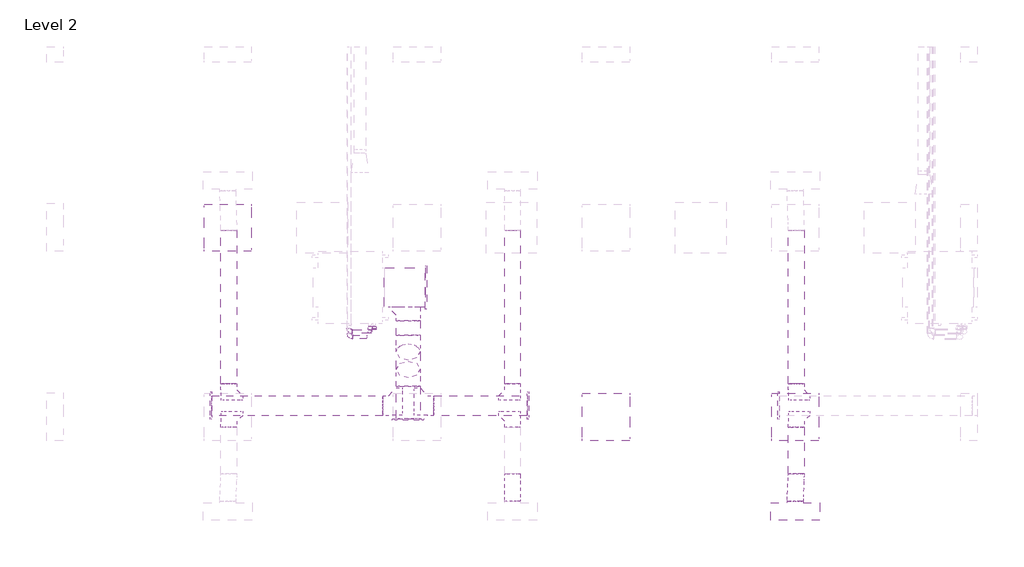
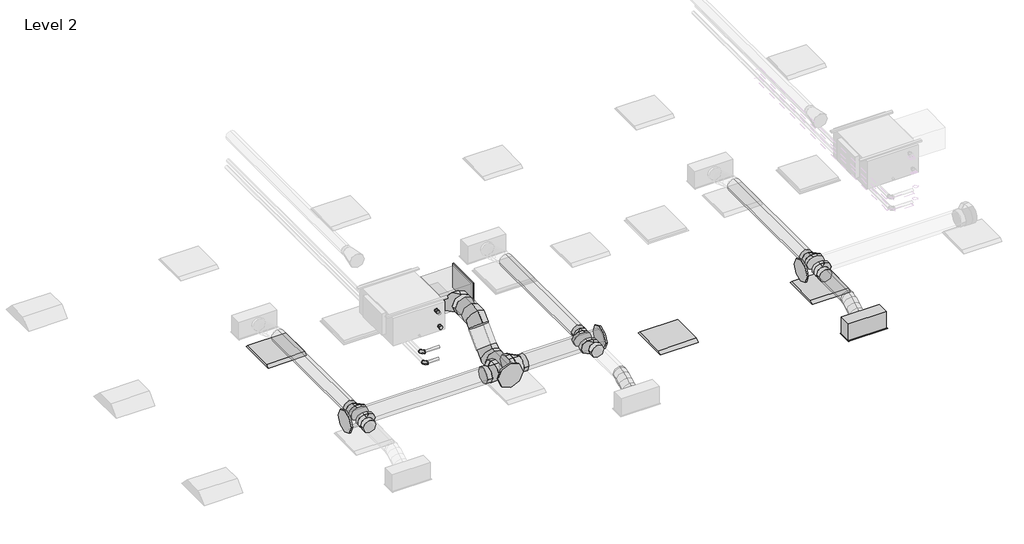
# One storey, part 5 of 26: 16 duct fittings, 12 duct segments, 4 pipe fittings, 4 pipe segments, 3 light fixtures, 1 air terminal.
"""IFC4 building model written with IfcOpenShell, lengths in millimetres."""

from ifc_helpers import new_model, si_unit, point, frame, frame_2d, origin, place, context, project, spatial, polyline, circle_curve, ellipse_curve, trimmed, segment, composite_curve, outline, extrude, transform, mapped, element, save
from ifc_brep_helpers import plane_surface, cylinder_surface, advanced_brep
from components import supply_diffuser_with_plenum_linear_slot_hosted_8c379eed, dw144_rectangular_blank_end_standard_8fde7d16, dw144_round_blank_end_standard_f82b0856, dw144_round_blank_end_standard_9aa061e7, dw144_round_segmented_bend_slip_joint_standard_8b80c5ae, dw144_round_shoe_branch_slip_joint1_standard_2_15a2edd8, dw144_round_shoe_branch_slip_joint1_standard_2_559552f4, dw144_round_shoe_branch_slip_joint1_standard_2_7ba9e4ed, dw144_round_shoe_branch_slip_joint1_standard_2_67b64720, light_fixture_1c7c1157, elbow_threaded_gmi_standard_b4aa7741, socket_reducing_threaded_gmi_standard_0a4076b8

model = new_model("IFC4")

# Units and contexts
model_context = context("Model", 3, world=origin())
ifc_project = project(units=[si_unit("LENGTHUNIT", "METRE", prefix="MILLI")], contexts=[model_context])

# Site, building, storey
site = spatial("IfcSite", under=ifc_project)
building = spatial("IfcBuilding", under=site)
storey = spatial("IfcBuildingStorey", under=building, Name="Level 2", Elevation=7800.0)

# Air terminal
placement = place(None, origin())
supply_diffuser_with_plenum_linear_slot_hosted_shape = supply_diffuser_with_plenum_linear_slot_hosted_8c379eed(model_context)
element("IfcAirTerminal", 1, ObjectType="Supply Diffuser with Plenum - Linear Slot - Hosted : 24\" x 8\"-200 In Inlet  4-Slot", at=placement, inside=storey, context=model_context, shape_type="MappedRepresentation", body=[
    mapped(supply_diffuser_with_plenum_linear_slot_hosted_shape, transform((23562.2000027, 963.2000004, 10600.0), x_axis=(1.0, 0.0, 0.0), y_axis=(0.0, -1.0, 0.0), z_axis=(0.0, 0.0, -1.0))),
])

# Duct fittings
dw144_rectangular_blank_end_standard_shape = dw144_rectangular_blank_end_standard_8fde7d16(model_context)
element("IfcDuctFitting", 2, ObjectType="DW144 Rectangular Blank End : Standard", at=placement, inside=storey, context=model_context, shape_type="MappedRepresentation", body=[
    mapped(dw144_rectangular_blank_end_standard_shape, transform((18866.2561025, 3806.0000004, 11276.3911538), x_axis=(1.0, 0.0, 0.0), y_axis=(0.0, 1.0, 0.0), z_axis=(0.0, 0.0, 1.0))),
])
dw144_round_blank_end_standard_shape = dw144_round_blank_end_standard_f82b0856(model_context)
element("IfcDuctFitting", 3, ObjectType="DW144 Round Blank End : Standard", at=placement, inside=storey, context=model_context, shape_type="MappedRepresentation", body=[
    mapped(dw144_round_blank_end_standard_shape, transform((18651.4561025, 2142.9916128, 10872.2088531), x_axis=(0.0, -1.0, 0.0), y_axis=(1.0, 0.0, 0.0), z_axis=(0.0, 0.0, 1.0))),
])
dw144_round_blank_end_standard_2_shape = dw144_round_blank_end_standard_9aa061e7(model_context)
element("IfcDuctFitting", 4, ObjectType="DW144 Round Blank End : Standard", at=placement, inside=storey, context=model_context, shape_type="MappedRepresentation", body=[
    mapped(dw144_round_blank_end_standard_2_shape, transform((20161.4561025, 2306.5018192, 10872.2088531), x_axis=(1.0, 0.0, 0.0), y_axis=(0.0, 1.0, 0.0), z_axis=(0.0, 0.0, 1.0))),
])
element("IfcDuctFitting", 5, ObjectType="DW144 Round Blank End : Standard", at=placement, inside=storey, context=model_context, shape_type="MappedRepresentation", body=[
    mapped(dw144_round_blank_end_standard_2_shape, transform((16161.4561025, 2306.5018192, 10872.2088531), x_axis=(-1.0, 0.0, 0.0), y_axis=(0.0, -1.0, 0.0), z_axis=(0.0, 0.0, 1.0))),
])
element("IfcDuctFitting", 6, ObjectType="DW144 Round Blank End : Standard", at=placement, inside=storey, context=model_context, shape_type="MappedRepresentation", body=[
    mapped(dw144_round_blank_end_standard_2_shape, transform((23361.4561025, 2306.5018192, 10872.2088531), x_axis=(-1.0, 0.0, 0.0), y_axis=(0.0, -1.0, 0.0), z_axis=(0.0, 0.0, 1.0))),
])
dw144_round_segmented_bend_slip_joint_standard_shape = dw144_round_segmented_bend_slip_joint_standard_8b80c5ae(model_context)
element("IfcDuctFitting", 7, ObjectType="DW144 Round Segmented Bend - Slip Joint : Standard", at=placement, inside=storey, context=model_context, shape_type="MappedRepresentation", body=[
    mapped(dw144_round_segmented_bend_slip_joint_standard_shape, transform((18651.4561025, 2678.6338536, 10872.2088531), x_axis=(0.0, -0.7071067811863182, -0.7071067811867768), y_axis=(0.0, 0.7071067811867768, -0.7071067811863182), z_axis=(1.0, 0.0, 0.0))),
])
element("IfcDuctFitting", 8, ObjectType="DW144 Round Segmented Bend - Slip Joint : Standard", at=placement, inside=storey, context=model_context, shape_type="MappedRepresentation", body=[
    mapped(dw144_round_segmented_bend_slip_joint_standard_shape, transform((18651.4561025, 3076.0000004, 11269.575), x_axis=(0.0, -1.0, 0.0), y_axis=(0.0, 0.0, 1.0), z_axis=(-1.0, 0.0, 0.0))),
])
dw144_round_shoe_branch_slip_joint1_standard_2_shape = dw144_round_shoe_branch_slip_joint1_standard_2_15a2edd8(model_context)
element("IfcDuctFitting", 9, ObjectType="DW144 Round Shoe Branch - Slip Joint1 : Standard 2", at=placement, inside=storey, context=model_context, shape_type="MappedRepresentation", body=[
    mapped(dw144_round_shoe_branch_slip_joint1_standard_2_shape, transform((16373.9000022, 2181.5018192, 10872.2088531), x_axis=(0.0, -1.0, 0.0), y_axis=(-1.0, 0.0, 0.0), z_axis=(0.0, 0.0, -1.0))),
])
element("IfcDuctFitting", 10, ObjectType="DW144 Round Shoe Branch - Slip Joint1 : Standard 2", at=placement, inside=storey, context=model_context, shape_type="MappedRepresentation", body=[
    mapped(dw144_round_shoe_branch_slip_joint1_standard_2_shape, transform((16373.9000022, 2431.5018192, 10872.2088531), x_axis=(0.0, 1.0, 0.0), y_axis=(-1.0, 0.0, 0.0), z_axis=(0.0, 0.0, 1.0))),
])
element("IfcDuctFitting", 11, ObjectType="DW144 Round Shoe Branch - Slip Joint1 : Standard 2", at=placement, inside=storey, context=model_context, shape_type="MappedRepresentation", body=[
    mapped(dw144_round_shoe_branch_slip_joint1_standard_2_shape, transform((23573.9000022, 2181.5018192, 10872.2088531), x_axis=(0.0, -1.0, 0.0), y_axis=(-1.0, 0.0, 0.0), z_axis=(0.0, 0.0, -1.0))),
])
element("IfcDuctFitting", 12, ObjectType="DW144 Round Shoe Branch - Slip Joint1 : Standard 2", at=placement, inside=storey, context=model_context, shape_type="MappedRepresentation", body=[
    mapped(dw144_round_shoe_branch_slip_joint1_standard_2_shape, transform((23573.9000022, 2431.5018192, 10872.2088531), x_axis=(0.0, 1.0, 0.0), y_axis=(-1.0, 0.0, 0.0), z_axis=(0.0, 0.0, 1.0))),
])
dw144_round_shoe_branch_slip_joint1_standard_2_2_shape = dw144_round_shoe_branch_slip_joint1_standard_2_559552f4(model_context)
element("IfcDuctFitting", 13, ObjectType="DW144 Round Shoe Branch - Slip Joint1 : Standard 2", at=placement, inside=storey, context=model_context, shape_type="MappedRepresentation", body=[
    mapped(dw144_round_shoe_branch_slip_joint1_standard_2_2_shape, transform((19973.9000022, 2181.5018192, 10872.2088531), x_axis=(0.0, -1.0, 0.0), y_axis=(-1.0, 0.0, 0.0), z_axis=(0.0, 0.0, -1.0))),
])
element("IfcDuctFitting", 14, ObjectType="DW144 Round Shoe Branch - Slip Joint1 : Standard 2", at=placement, inside=storey, context=model_context, shape_type="MappedRepresentation", body=[
    mapped(dw144_round_shoe_branch_slip_joint1_standard_2_2_shape, transform((19973.9000022, 2431.5018192, 10872.2088531), x_axis=(0.0, 1.0, 0.0), y_axis=(-1.0, 0.0, 0.0), z_axis=(0.0, 0.0, 1.0))),
])
dw144_round_shoe_branch_slip_joint1_standard_2_3_shape = dw144_round_shoe_branch_slip_joint1_standard_2_7ba9e4ed(model_context)
element("IfcDuctFitting", 15, ObjectType="DW144 Round Shoe Branch - Slip Joint1 : Standard 2", at=placement, inside=storey, context=model_context, shape_type="MappedRepresentation", body=[
    mapped(dw144_round_shoe_branch_slip_joint1_standard_2_3_shape, transform((18651.4561025, 3556.0000004, 11269.575), x_axis=(0.0, -1.0, 0.0), y_axis=(-1.0, 0.0, 0.0), z_axis=(0.0, 0.0, -1.0))),
])
dw144_round_shoe_branch_slip_joint1_standard_2_4_shape = dw144_round_shoe_branch_slip_joint1_standard_2_67b64720(model_context)
element("IfcDuctFitting", 16, ObjectType="DW144 Round Shoe Branch - Slip Joint1 : Standard 2", at=placement, inside=storey, context=model_context, shape_type="MappedRepresentation", body=[
    mapped(dw144_round_shoe_branch_slip_joint1_standard_2_4_shape, transform((18801.4561025, 2306.5018192, 10872.2088531), x_axis=(1.0, 0.0, 0.0), y_axis=(0.0, -1.0, 0.0), z_axis=(0.0, 0.0, -1.0))),
])
element("IfcDuctFitting", 17, ObjectType="DW144 Round Shoe Branch - Slip Joint1 : Standard 2", at=placement, inside=storey, context=model_context, shape_type="MappedRepresentation", body=[
    mapped(dw144_round_shoe_branch_slip_joint1_standard_2_4_shape, transform((18501.4561025, 2306.5018192, 10872.2088531), x_axis=(-1.0, 0.0, 0.0), y_axis=(0.0, -1.0, 0.0), z_axis=(0.0, 0.0, 1.0))),
])

# Duct segments
element("IfcDuctSegment", 18, ObjectType="DW144 Flanged Med Radius Bend / Shoe Branch", at=placement, inside=storey, context=model_context, shape_type="SweptSolid", body=[
    extrude(outline(polyline([(18346.6561025, 3556.0000004), (18346.6561025, 4056.0000004), (18866.2561025, 4056.0000004), (18866.2561025, 3556.0000004), (18346.6561025, 3556.0000004)])), frame((0.0, 0.0, 11101.3911538), z_axis=(0.0, 0.0, 1.0), x_axis=(1.0, 0.0, 0.0)), (0.0, 0.0, 1.0), 350.0),
])
element("IfcDuctSegment", 19, ObjectType="DW144 Segmented Bend / Shoe Branch", at=placement, inside=storey, context=model_context, shape_type="SweptSolid", body=[
    extrude(outline(composite_curve([segment(trimmed(circle_curve(frame_2d((11269.575, 18651.4561025)), 150.0), [point((11269.575, 18501.4561025))], [point((11119.575, 18651.4561025))], False, "CARTESIAN"), True, "CONTINUOUS"), segment(trimmed(circle_curve(frame_2d((11269.575, 18651.4561025)), 150.0), [point((11119.575, 18651.4561025))], [point((11269.575, 18801.4561025))], False, "CARTESIAN"), True, "CONTINUOUS"), segment(trimmed(circle_curve(frame_2d((11269.575, 18651.4561025)), 150.0), [point((11269.575, 18801.4561025))], [point((11419.575, 18651.4561025))], False, "CARTESIAN"), True, "CONTINUOUS"), segment(trimmed(circle_curve(frame_2d((11269.575, 18651.4561025)), 150.0), [point((11419.575, 18651.4561025))], [point((11269.575, 18501.4561025))], False, "CARTESIAN"), True, "CONTINUOUS")], self_intersect=False)), frame((0.0, 3200.2640691, 0.0), z_axis=(0.0, 1.0, 0.0), x_axis=(0.0, 0.0, 1.0)), (0.0, 0.0, 1.0), 180.7359313),
])
element("IfcDuctSegment", 20, ObjectType="DW144 Segmented Bend / Shoe Branch", at=placement, inside=storey, context=model_context, shape_type="SweptSolid", body=[
    extrude(outline(composite_curve([segment(trimmed(circle_curve(frame_2d((10872.2088531, 18651.4561025)), 150.0), [point((10872.2088531, 18501.4561025))], [point((10722.2088531, 18651.4561025))], False, "CARTESIAN"), True, "CONTINUOUS"), segment(trimmed(circle_curve(frame_2d((10872.2088531, 18651.4561025)), 150.0), [point((10722.2088531, 18651.4561025))], [point((10872.2088531, 18801.4561025))], False, "CARTESIAN"), True, "CONTINUOUS"), segment(trimmed(circle_curve(frame_2d((10872.2088531, 18651.4561025)), 150.0), [point((10872.2088531, 18801.4561025))], [point((11022.2088531, 18651.4561025))], False, "CARTESIAN"), True, "CONTINUOUS"), segment(trimmed(circle_curve(frame_2d((10872.2088531, 18651.4561025)), 150.0), [point((11022.2088531, 18651.4561025))], [point((10872.2088531, 18501.4561025))], False, "CARTESIAN"), True, "CONTINUOUS")], self_intersect=False)), frame((0.0, 2142.9916128, 0.0), z_axis=(0.0, 1.0, 0.0), x_axis=(0.0, 0.0, 1.0)), (0.0, 0.0, 1.0), 411.3781721),
])
element("IfcDuctSegment", 21, ObjectType="DW144 Segmented Bend / Shoe Branch", at=placement, inside=storey, context=model_context, shape_type="SweptSolid", body=[
    extrude(outline(composite_curve([segment(trimmed(circle_curve(frame_2d((0.0, -150.0)), 150.0), [point((-150.0, -150.0))], [point((0.0, 0.0))], False, "CARTESIAN"), True, "CONTINUOUS"), segment(trimmed(circle_curve(frame_2d((0.0, -150.0)), 150.0), [point((0.0, 0.0))], [point((150.0, -150.0))], False, "CARTESIAN"), True, "CONTINUOUS"), segment(trimmed(circle_curve(frame_2d((0.0, -150.0)), 150.0), [point((150.0, -150.0))], [point((0.0, -300.0))], False, "CARTESIAN"), True, "CONTINUOUS"), segment(trimmed(circle_curve(frame_2d((0.0, -150.0)), 150.0), [point((0.0, -300.0))], [point((-150.0, -150.0))], False, "CARTESIAN"), True, "CONTINUOUS")], self_intersect=False)), frame((18651.4561025, 2872.5678364, 10854.0108016), z_axis=(0.0, 0.7071067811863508, 0.7071067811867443), x_axis=(1.0, 0.0, 0.0)), (0.0, 0.0, 1.0), 313.4324567),
])
element("IfcDuctSegment", 22, ObjectType="DW144 Segmented Bend / Shoe Branch", at=placement, inside=storey, context=model_context, shape_type="SweptSolid", body=[
    extrude(outline(composite_curve([segment(trimmed(circle_curve(frame_2d((2306.5018192, 10872.2088531)), 125.0), [point((2181.5018192, 10872.2088531))], [point((2306.5018192, 10997.2088531))], False, "CARTESIAN"), True, "CONTINUOUS"), segment(trimmed(circle_curve(frame_2d((2306.5018192, 10872.2088531)), 125.0), [point((2306.5018192, 10997.2088531))], [point((2431.5018192, 10872.2088531))], False, "CARTESIAN"), True, "CONTINUOUS"), segment(trimmed(circle_curve(frame_2d((2306.5018192, 10872.2088531)), 125.0), [point((2431.5018192, 10872.2088531))], [point((2306.5018192, 10747.2088531))], False, "CARTESIAN"), True, "CONTINUOUS"), segment(trimmed(circle_curve(frame_2d((2306.5018192, 10872.2088531)), 125.0), [point((2306.5018192, 10747.2088531))], [point((2181.5018192, 10872.2088531))], False, "CARTESIAN"), True, "CONTINUOUS")], self_intersect=False)), frame((18976.4561025, 0.0, 0.0), z_axis=(1.0, 0.0, 0.0), x_axis=(0.0, 1.0, 0.0)), (0.0, 0.0, 1.0), 1185.0),
])
element("IfcDuctSegment", 23, ObjectType="DW144 Segmented Bend / Shoe Branch", at=placement, inside=storey, context=model_context, shape_type="SweptSolid", body=[
    extrude(outline(composite_curve([segment(trimmed(circle_curve(frame_2d((2306.5018192, 10872.2088531)), 125.0), [point((2431.5018192, 10872.2088531))], [point((2306.5018192, 10747.2088531))], False, "CARTESIAN"), True, "CONTINUOUS"), segment(trimmed(circle_curve(frame_2d((2306.5018192, 10872.2088531)), 125.0), [point((2306.5018192, 10747.2088531))], [point((2181.5018192, 10872.2088531))], False, "CARTESIAN"), True, "CONTINUOUS"), segment(trimmed(circle_curve(frame_2d((2306.5018192, 10872.2088531)), 125.0), [point((2181.5018192, 10872.2088531))], [point((2306.5018192, 10997.2088531))], False, "CARTESIAN"), True, "CONTINUOUS"), segment(trimmed(circle_curve(frame_2d((2306.5018192, 10872.2088531)), 125.0), [point((2306.5018192, 10997.2088531))], [point((2431.5018192, 10872.2088531))], False, "CARTESIAN"), True, "CONTINUOUS")], self_intersect=False)), frame((16161.4561025, 0.0, 0.0), z_axis=(1.0, 0.0, 0.0), x_axis=(0.0, 1.0, 0.0)), (0.0, 0.0, 1.0), 2165.0),
])
element("IfcDuctSegment", 24, ObjectType="DW144 Segmented Bend / Shoe Branch", at=placement, inside=storey, context=model_context, shape_type="SweptSolid", body=[
    extrude(outline(composite_curve([segment(trimmed(circle_curve(frame_2d((10872.2088531, 19973.9000022)), 100.0), [point((10872.2088531, 20073.9000022))], [point((10972.2088531, 19973.9000022))], False, "CARTESIAN"), True, "CONTINUOUS"), segment(trimmed(circle_curve(frame_2d((10872.2088531, 19973.9000022)), 100.0), [point((10972.2088531, 19973.9000022))], [point((10872.2088531, 19873.9000022))], False, "CARTESIAN"), True, "CONTINUOUS"), segment(trimmed(circle_curve(frame_2d((10872.2088531, 19973.9000022)), 100.0), [point((10872.2088531, 19873.9000022))], [point((10772.2088531, 19973.9000022))], False, "CARTESIAN"), True, "CONTINUOUS"), segment(trimmed(circle_curve(frame_2d((10872.2088531, 19973.9000022)), 100.0), [point((10772.2088531, 19973.9000022))], [point((10872.2088531, 20073.9000022))], False, "CARTESIAN"), True, "CONTINUOUS")], self_intersect=False)), frame((0.0, 2581.5018192, 0.0), z_axis=(0.0, 1.0, 0.0), x_axis=(0.0, 0.0, 1.0)), (0.0, 0.0, 1.0), 1950.0),
])
element("IfcDuctSegment", 25, ObjectType="DW144 Segmented Bend / Shoe Branch", at=placement, inside=storey, context=model_context, shape_type="SweptSolid", body=[
    extrude(outline(composite_curve([segment(trimmed(circle_curve(frame_2d((10872.2088531, 16373.9000022)), 100.0), [point((10872.2088531, 16473.9000022))], [point((10972.2088531, 16373.9000022))], False, "CARTESIAN"), True, "CONTINUOUS"), segment(trimmed(circle_curve(frame_2d((10872.2088531, 16373.9000022)), 100.0), [point((10972.2088531, 16373.9000022))], [point((10872.2088531, 16273.9000022))], False, "CARTESIAN"), True, "CONTINUOUS"), segment(trimmed(circle_curve(frame_2d((10872.2088531, 16373.9000022)), 100.0), [point((10872.2088531, 16273.9000022))], [point((10772.2088531, 16373.9000022))], False, "CARTESIAN"), True, "CONTINUOUS"), segment(trimmed(circle_curve(frame_2d((10872.2088531, 16373.9000022)), 100.0), [point((10772.2088531, 16373.9000022))], [point((10872.2088531, 16473.9000022))], False, "CARTESIAN"), True, "CONTINUOUS")], self_intersect=False)), frame((0.0, 2581.5018192, 0.0), z_axis=(0.0, 1.0, 0.0), x_axis=(0.0, 0.0, 1.0)), (0.0, 0.0, 1.0), 1950.0),
])
element("IfcDuctSegment", 26, ObjectType="DW144 Segmented Bend / Shoe Branch", at=placement, inside=storey, context=model_context, shape_type="SweptSolid", body=[
    extrude(outline(composite_curve([segment(trimmed(circle_curve(frame_2d((10872.2088531, 23573.9000022)), 100.0), [point((10872.2088531, 23673.9000022))], [point((10972.2088531, 23573.9000022))], False, "CARTESIAN"), True, "CONTINUOUS"), segment(trimmed(circle_curve(frame_2d((10872.2088531, 23573.9000022)), 100.0), [point((10972.2088531, 23573.9000022))], [point((10872.2088531, 23473.9000022))], False, "CARTESIAN"), True, "CONTINUOUS"), segment(trimmed(circle_curve(frame_2d((10872.2088531, 23573.9000022)), 100.0), [point((10872.2088531, 23473.9000022))], [point((10772.2088531, 23573.9000022))], False, "CARTESIAN"), True, "CONTINUOUS"), segment(trimmed(circle_curve(frame_2d((10872.2088531, 23573.9000022)), 100.0), [point((10772.2088531, 23573.9000022))], [point((10872.2088531, 23673.9000022))], False, "CARTESIAN"), True, "CONTINUOUS")], self_intersect=False)), frame((0.0, 1441.5018192, 0.0), z_axis=(0.0, 1.0, 0.0), x_axis=(0.0, 0.0, 1.0)), (0.0, 0.0, 1.0), 590.0),
])
element("IfcDuctSegment", 27, ObjectType="DW144 Segmented Bend / Shoe Branch", at=placement, inside=storey, context=model_context, shape_type="SweptSolid", body=[
    extrude(outline(composite_curve([segment(trimmed(circle_curve(frame_2d((10872.2088531, 23573.9000022)), 100.0), [point((10872.2088531, 23673.9000022))], [point((10972.2088531, 23573.9000022))], False, "CARTESIAN"), True, "CONTINUOUS"), segment(trimmed(circle_curve(frame_2d((10872.2088531, 23573.9000022)), 100.0), [point((10972.2088531, 23573.9000022))], [point((10872.2088531, 23473.9000022))], False, "CARTESIAN"), True, "CONTINUOUS"), segment(trimmed(circle_curve(frame_2d((10872.2088531, 23573.9000022)), 100.0), [point((10872.2088531, 23473.9000022))], [point((10772.2088531, 23573.9000022))], False, "CARTESIAN"), True, "CONTINUOUS"), segment(trimmed(circle_curve(frame_2d((10872.2088531, 23573.9000022)), 100.0), [point((10772.2088531, 23573.9000022))], [point((10872.2088531, 23673.9000022))], False, "CARTESIAN"), True, "CONTINUOUS")], self_intersect=False)), frame((0.0, 2581.5018192, 0.0), z_axis=(0.0, 1.0, 0.0), x_axis=(0.0, 0.0, 1.0)), (0.0, 0.0, 1.0), 1950.0),
])
element("IfcDuctSegment", 28, ObjectType="Flex - Round", at=placement, inside=storey, context=model_context, shape_type="AdvancedBrep", body=[
    advanced_brep(
    [(20073.9000022, 1441.5018192, 10872.2088531), (19973.9000022, 1441.5018192, 10772.2088531), (19873.9000022, 1441.5018192, 10872.2088531), (19973.9000022, 1441.5018192, 10972.2088531), (20073.9000022, 1421.2831204, 10872.2088531), (19973.9000022, 1434.4030998, 10772.2088531), (19873.9000022, 1421.2831204, 10872.2088531), (19973.9000022, 1408.1631411, 10972.2088531), (20073.9000022, 1092.1000004, 10754.4), (19973.9000022, 1092.1000004, 10854.4), (19873.9000022, 1092.1000004, 10754.4), (19973.9000022, 1092.1000004, 10654.4), (20073.9000022, 1352.3395072, 10853.8012198), (19973.9000022, 1386.9157373, 10759.5299419), (19873.9000022, 1352.3395072, 10853.8012198), (19973.9000022, 1317.7632771, 10948.0724978), (20073.9000022, 1266.8009098, 10813.3044266), (19973.9000022, 1309.5909979, 10722.9218599), (19873.9000022, 1266.8009098, 10813.3044266), (19973.9000022, 1224.0108217, 10903.6869932), (20073.9000022, 1181.2623124, 10772.8076333), (19973.9000022, 1215.8385426, 10678.5363553), (19873.9000022, 1181.2623124, 10772.8076333), (19973.9000022, 1146.6860823, 10867.0789113), (20073.9000022, 1112.3186992, 10754.4), (19973.9000022, 1125.4386785, 10654.4), (19873.9000022, 1112.3186992, 10754.4), (19973.9000022, 1099.1987199, 10854.4)],
    [
        (0, 1, circle_curve(frame((19973.9000022, 1441.5018192, 10872.2088531), z_axis=(0.0, 1.0, 0.0), x_axis=(1.0, 0.0, 0.0)), 100.0)),
        (1, 2, circle_curve(frame((19973.9000022, 1441.5018192, 10872.2088531), z_axis=(0.0, 1.0, 0.0), x_axis=(1.0, 0.0, 0.0)), 100.0)),
        (2, 3, circle_curve(frame((19973.9000022, 1441.5018192, 10872.2088531), z_axis=(0.0, 1.0, 0.0), x_axis=(1.0, 0.0, 0.0)), 100.0)),
        (3, 0, circle_curve(frame((19973.9000022, 1441.5018192, 10872.2088531), z_axis=(0.0, 1.0, 0.0), x_axis=(1.0, 0.0, 0.0)), 100.0)),
        (0, 4),
        (4, 5, ellipse_curve(frame((19973.9000022, 1421.2831204, 10872.2088531), z_axis=(0.0, 0.9915028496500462, 0.1300849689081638), x_axis=(0.0, 0.1300849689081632, -0.9915028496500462)), 100.8569971, 100.0)),
        (5, 1),
        (5, 6, ellipse_curve(frame((19973.9000022, 1421.2831204, 10872.2088531), z_axis=(0.0, 0.9915028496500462, 0.1300849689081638), x_axis=(0.0, 0.1300849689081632, -0.9915028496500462)), 100.8569971, 100.0)),
        (6, 2),
        (6, 7, ellipse_curve(frame((19973.9000022, 1421.2831204, 10872.2088531), z_axis=(0.0, 0.9915028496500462, 0.1300849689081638), x_axis=(0.0, 0.1300849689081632, -0.9915028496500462)), 100.8569971, 100.0)),
        (7, 3),
        (7, 4, ellipse_curve(frame((19973.9000022, 1421.2831204, 10872.2088531), z_axis=(0.0, 0.9915028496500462, 0.1300849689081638), x_axis=(0.0, 0.1300849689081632, -0.9915028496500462)), 100.8569971, 100.0)),
        (8, 9, circle_curve(frame((19973.9000022, 1092.1000004, 10754.4), z_axis=(0.0, -1.0, 0.0), x_axis=(1.0, 0.0, 0.0)), 100.0)),
        (9, 10, circle_curve(frame((19973.9000022, 1092.1000004, 10754.4), z_axis=(0.0, -1.0, 0.0), x_axis=(1.0, 0.0, 0.0)), 100.0)),
        (10, 11, circle_curve(frame((19973.9000022, 1092.1000004, 10754.4), z_axis=(0.0, -1.0, 0.0), x_axis=(1.0, 0.0, 0.0)), 100.0)),
        (11, 8, circle_curve(frame((19973.9000022, 1092.1000004, 10754.4), z_axis=(0.0, -1.0, 0.0), x_axis=(1.0, 0.0, 0.0)), 100.0)),
        (4, 12),
        (12, 13, ellipse_curve(frame((19973.9000022, 1352.3395072, 10853.8012198), z_axis=(0.0, 0.9388438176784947, 0.3443432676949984), x_axis=(0.0, 0.34434326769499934, -0.9388438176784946)), 100.4120986, 100.0)),
        (13, 5),
        (13, 14, ellipse_curve(frame((19973.9000022, 1352.3395072, 10853.8012198), z_axis=(0.0, 0.9388438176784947, 0.3443432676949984), x_axis=(0.0, 0.34434326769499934, -0.9388438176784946)), 100.4120986, 100.0)),
        (14, 6),
        (14, 15, ellipse_curve(frame((19973.9000022, 1352.3395072, 10853.8012198), z_axis=(0.0, 0.9388438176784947, 0.3443432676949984), x_axis=(0.0, 0.34434326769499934, -0.9388438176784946)), 100.4120986, 100.0)),
        (15, 7),
        (15, 12, ellipse_curve(frame((19973.9000022, 1352.3395072, 10853.8012198), z_axis=(0.0, 0.9388438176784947, 0.3443432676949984), x_axis=(0.0, 0.34434326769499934, -0.9388438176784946)), 100.4120986, 100.0)),
        (12, 16),
        (16, 17, circle_curve(frame((19973.9000022, 1266.8009098, 10813.3044266), z_axis=(0.0, 0.9038256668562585, 0.42790088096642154), x_axis=(1.0, 0.0, 0.0)), 100.0)),
        (17, 13),
        (17, 18, circle_curve(frame((19973.9000022, 1266.8009098, 10813.3044266), z_axis=(0.0, 0.9038256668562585, 0.42790088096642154), x_axis=(1.0, 0.0, 0.0)), 100.0)),
        (18, 14),
        (18, 19, circle_curve(frame((19973.9000022, 1266.8009098, 10813.3044266), z_axis=(0.0, 0.9038256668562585, 0.42790088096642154), x_axis=(1.0, 0.0, 0.0)), 100.0)),
        (19, 15),
        (19, 16, circle_curve(frame((19973.9000022, 1266.8009098, 10813.3044266), z_axis=(0.0, 0.9038256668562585, 0.42790088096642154), x_axis=(1.0, 0.0, 0.0)), 100.0)),
        (16, 20),
        (20, 21, ellipse_curve(frame((19973.9000022, 1181.2623124, 10772.8076333), z_axis=(0.0, 0.9388438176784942, 0.3443432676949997), x_axis=(0.0, -0.3443432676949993, 0.9388438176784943)), 100.4120986, 100.0)),
        (21, 17),
        (21, 22, ellipse_curve(frame((19973.9000022, 1181.2623124, 10772.8076333), z_axis=(0.0, 0.9388438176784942, 0.3443432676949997), x_axis=(0.0, -0.3443432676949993, 0.9388438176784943)), 100.4120986, 100.0)),
        (22, 18),
        (22, 23, ellipse_curve(frame((19973.9000022, 1181.2623124, 10772.8076333), z_axis=(0.0, 0.9388438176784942, 0.3443432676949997), x_axis=(0.0, -0.3443432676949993, 0.9388438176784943)), 100.4120986, 100.0)),
        (23, 19),
        (23, 20, ellipse_curve(frame((19973.9000022, 1181.2623124, 10772.8076333), z_axis=(0.0, 0.9388438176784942, 0.3443432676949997), x_axis=(0.0, -0.3443432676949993, 0.9388438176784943)), 100.4120986, 100.0)),
        (20, 24),
        (24, 25, ellipse_curve(frame((19973.9000022, 1112.3186992, 10754.4), z_axis=(0.0, 0.9915028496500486, 0.13008496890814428), x_axis=(0.0, -0.13008496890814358, 0.9915028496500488)), 100.8569971, 100.0)),
        (25, 21),
        (25, 26, ellipse_curve(frame((19973.9000022, 1112.3186992, 10754.4), z_axis=(0.0, 0.9915028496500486, 0.13008496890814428), x_axis=(0.0, -0.13008496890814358, 0.9915028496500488)), 100.8569971, 100.0)),
        (26, 22),
        (26, 27, ellipse_curve(frame((19973.9000022, 1112.3186992, 10754.4), z_axis=(0.0, 0.9915028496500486, 0.13008496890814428), x_axis=(0.0, -0.13008496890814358, 0.9915028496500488)), 100.8569971, 100.0)),
        (27, 23),
        (27, 24, ellipse_curve(frame((19973.9000022, 1112.3186992, 10754.4), z_axis=(0.0, 0.9915028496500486, 0.13008496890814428), x_axis=(0.0, -0.13008496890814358, 0.9915028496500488)), 100.8569971, 100.0)),
        (24, 8),
        (11, 25),
        (10, 26),
        (9, 27),
    ],
    [
        plane_surface(frame((19873.9000022, 1441.5018192, 10872.2088531), z_axis=(0.0, 1.0, 0.0), x_axis=(0.0, 0.0, -1.0))),
        cylinder_surface(frame((19973.9000022, 1441.5018192, 10872.2088531), z_axis=(0.0, 1.0, 0.0), x_axis=(1.0, 0.0, 0.0)), 100.0),
        plane_surface(frame((19873.9000022, 1092.1000004, 10754.4), z_axis=(0.0, -1.0, 0.0), x_axis=(0.0, 0.0, -1.0))),
        cylinder_surface(frame((19973.9000022, 1421.2831204, 10872.2088531), z_axis=(0.0, 0.9661558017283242, 0.2579592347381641), x_axis=(1.0, 0.0, 0.0)), 100.0),
        cylinder_surface(frame((19973.9000022, 1352.3395072, 10853.8012198), z_axis=(0.0, 0.9038256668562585, 0.42790088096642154), x_axis=(1.0, 0.0, 0.0)), 100.0),
        cylinder_surface(frame((19973.9000022, 1266.8009098, 10813.3044266), z_axis=(0.0, 0.9038256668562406, 0.42790088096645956), x_axis=(1.0, 0.0, 0.0)), 100.0),
        cylinder_surface(frame((19973.9000022, 1181.2623124, 10772.8076333), z_axis=(0.0, 0.9661558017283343, 0.25795923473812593), x_axis=(1.0, 0.0, 0.0)), 100.0),
        cylinder_surface(frame((19973.9000022, 1112.3186992, 10754.4), z_axis=(0.0, 1.0, 0.0), x_axis=(1.0, 0.0, 0.0)), 100.0),
    ],
    [
        (0, [[1, 2, 3, 4]]),
        (1, [[-1, 5, 6, 7]]),
        (1, [[-2, -7, 8, 9]]),
        (1, [[-3, -9, 10, 11]]),
        (1, [[-4, -11, 12, -5]]),
        (2, [[13, 14, 15, 16]]),
        (3, [[-6, 17, 18, 19]]),
        (3, [[-8, -19, 20, 21]]),
        (3, [[-10, -21, 22, 23]]),
        (3, [[-12, -23, 24, -17]]),
        (4, [[-18, 25, 26, 27]]),
        (4, [[-20, -27, 28, 29]]),
        (4, [[-22, -29, 30, 31]]),
        (4, [[-24, -31, 32, -25]]),
        (5, [[-26, 33, 34, 35]]),
        (5, [[-28, -35, 36, 37]]),
        (5, [[-30, -37, 38, 39]]),
        (5, [[-32, -39, 40, -33]]),
        (6, [[-34, 41, 42, 43]]),
        (6, [[-36, -43, 44, 45]]),
        (6, [[-38, -45, 46, 47]]),
        (6, [[-40, -47, 48, -41]]),
        (7, [[-42, 49, -16, 50]]),
        (7, [[-44, -50, -15, 51]]),
        (7, [[-46, -51, -14, 52]]),
        (7, [[-48, -52, -13, -49]]),
    ],
),
])
element("IfcDuctSegment", 29, ObjectType="Flex - Round", at=placement, inside=storey, context=model_context, shape_type="AdvancedBrep", body=[
    advanced_brep(
    [(23673.9000022, 1441.5018192, 10872.2088531), (23573.9000022, 1441.5018192, 10772.2088531), (23473.9000022, 1441.5018192, 10872.2088531), (23573.9000022, 1441.5018192, 10972.2088531), (23673.9000022, 1419.9886644, 10872.2088531), (23573.9000022, 1434.4041273, 10772.2088531), (23473.9000022, 1422.5932881, 10872.2088531), (23573.9000022, 1408.1778252, 10972.2088531), (23662.2000027, 1092.1000004, 10754.4), (23562.2000027, 1092.1000004, 10854.4), (23462.2000027, 1092.1000004, 10754.4), (23562.2000027, 1092.1000004, 10654.4), (23672.0154345, 1348.8904029, 10853.2328893), (23572.6402079, 1386.8764181, 10759.5238159), (23472.1283201, 1355.7538157, 10854.3695504), (23571.5035467, 1317.7678004, 10948.0786237), (23667.9552415, 1262.5544078, 10812.3502664), (23569.0041626, 1309.5595036, 10722.9119919), (23468.1447633, 1271.0474118, 10814.2585867), (23567.0958423, 1224.0423161, 10903.6968612), (23663.9716847, 1177.8480039, 10772.2393027), (23564.5964582, 1215.8340192, 10678.5302294), (23464.0845704, 1184.7114168, 10773.3759639), (23563.459797, 1146.7254015, 10867.0850372), (23662.2000027, 1111.0085316, 10754.4), (23562.2000027, 1125.4239944, 10654.4), (23462.2000027, 1113.6131552, 10754.4), (23562.2000027, 1099.1976924, 10854.4)],
    [
        (0, 1, circle_curve(frame((23573.9000022, 1441.5018192, 10872.2088531), z_axis=(0.0, 1.0, 0.0), x_axis=(1.0, 0.0, 0.0)), 100.0)),
        (1, 2, circle_curve(frame((23573.9000022, 1441.5018192, 10872.2088531), z_axis=(0.0, 1.0, 0.0), x_axis=(1.0, 0.0, 0.0)), 100.0)),
        (2, 3, circle_curve(frame((23573.9000022, 1441.5018192, 10872.2088531), z_axis=(0.0, 1.0, 0.0), x_axis=(1.0, 0.0, 0.0)), 100.0)),
        (3, 0, circle_curve(frame((23573.9000022, 1441.5018192, 10872.2088531), z_axis=(0.0, 1.0, 0.0), x_axis=(1.0, 0.0, 0.0)), 100.0)),
        (0, 4),
        (4, 5, ellipse_curve(frame((23573.9000022, 1421.2909763, 10872.2088531), z_axis=(0.012911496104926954, 0.9914289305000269, 0.13000757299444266), x_axis=(-0.09798018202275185, 0.1306471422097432, -0.9865754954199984)), 100.8645168, 100.0)),
        (5, 1),
        (5, 6, ellipse_curve(frame((23573.9000022, 1421.2909763, 10872.2088531), z_axis=(0.012911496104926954, 0.9914289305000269, 0.13000757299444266), x_axis=(-0.09798018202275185, 0.1306471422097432, -0.9865754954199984)), 100.8645168, 100.0)),
        (6, 2),
        (6, 7, ellipse_curve(frame((23573.9000022, 1421.2909763, 10872.2088531), z_axis=(0.012911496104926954, 0.9914289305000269, 0.13000757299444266), x_axis=(-0.09798018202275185, 0.1306471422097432, -0.9865754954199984)), 100.8645168, 100.0)),
        (7, 3),
        (7, 4, ellipse_curve(frame((23573.9000022, 1421.2909763, 10872.2088531), z_axis=(0.012911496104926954, 0.9914289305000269, 0.13000757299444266), x_axis=(-0.09798018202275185, 0.1306471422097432, -0.9865754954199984)), 100.8645168, 100.0)),
        (8, 9, circle_curve(frame((23562.2000027, 1092.1000004, 10754.4), z_axis=(0.0, -1.0, 0.0), x_axis=(1.0, 0.0, 0.0)), 100.0)),
        (9, 10, circle_curve(frame((23562.2000027, 1092.1000004, 10754.4), z_axis=(0.0, -1.0, 0.0), x_axis=(1.0, 0.0, 0.0)), 100.0)),
        (10, 11, circle_curve(frame((23562.2000027, 1092.1000004, 10754.4), z_axis=(0.0, -1.0, 0.0), x_axis=(1.0, 0.0, 0.0)), 100.0)),
        (11, 8, circle_curve(frame((23562.2000027, 1092.1000004, 10754.4), z_axis=(0.0, -1.0, 0.0), x_axis=(1.0, 0.0, 0.0)), 100.0)),
        (4, 12),
        (12, 13, ellipse_curve(frame((23572.0718773, 1352.3221093, 10853.8012198), z_axis=(0.034174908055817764, 0.9383065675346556, 0.3441116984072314), x_axis=(-0.09273024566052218, 0.3458045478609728, -0.9337131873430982)), 100.4159667, 100.0)),
        (13, 5),
        (13, 14, ellipse_curve(frame((23572.0718773, 1352.3221093, 10853.8012198), z_axis=(0.034174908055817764, 0.9383065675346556, 0.3441116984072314), x_axis=(-0.09273024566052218, 0.3458045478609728, -0.9337131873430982)), 100.4159667, 100.0)),
        (14, 6),
        (14, 15, ellipse_curve(frame((23572.0718773, 1352.3221093, 10853.8012198), z_axis=(0.034174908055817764, 0.9383065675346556, 0.3441116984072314), x_axis=(-0.09273024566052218, 0.3458045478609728, -0.9337131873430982)), 100.4159667, 100.0)),
        (15, 7),
        (15, 12, ellipse_curve(frame((23572.0718773, 1352.3221093, 10853.8012198), z_axis=(0.034174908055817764, 0.9383065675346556, 0.3441116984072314), x_axis=(-0.09273024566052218, 0.3458045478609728, -0.9337131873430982)), 100.4159667, 100.0)),
        (12, 16),
        (16, 17, circle_curve(frame((23568.0500024, 1266.8009098, 10813.3044266), z_axis=(0.04246501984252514, 0.9029767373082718, 0.4275859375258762), x_axis=(0.9990523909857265, -0.04246501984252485, -0.00954160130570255)), 100.0)),
        (17, 13),
        (17, 18, circle_curve(frame((23568.0500024, 1266.8009098, 10813.3044266), z_axis=(0.04246501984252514, 0.9029767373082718, 0.4275859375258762), x_axis=(0.9990523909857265, -0.04246501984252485, -0.00954160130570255)), 100.0)),
        (18, 14),
        (18, 19, circle_curve(frame((23568.0500024, 1266.8009098, 10813.3044266), z_axis=(0.04246501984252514, 0.9029767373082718, 0.4275859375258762), x_axis=(0.9990523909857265, -0.04246501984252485, -0.00954160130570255)), 100.0)),
        (19, 15),
        (19, 16, circle_curve(frame((23568.0500024, 1266.8009098, 10813.3044266), z_axis=(0.04246501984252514, 0.9029767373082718, 0.4275859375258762), x_axis=(0.9990523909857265, -0.04246501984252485, -0.00954160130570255)), 100.0)),
        (16, 20),
        (20, 21, ellipse_curve(frame((23564.0281276, 1181.2797104, 10772.8076333), z_axis=(0.03417490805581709, 0.9383065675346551, 0.34411169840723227), x_axis=(0.09273024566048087, -0.34580454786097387, 0.9337131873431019)), 100.4159667, 100.0)),
        (21, 17),
        (21, 22, ellipse_curve(frame((23564.0281276, 1181.2797104, 10772.8076333), z_axis=(0.03417490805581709, 0.9383065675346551, 0.34411169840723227), x_axis=(0.09273024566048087, -0.34580454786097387, 0.9337131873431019)), 100.4159667, 100.0)),
        (22, 18),
        (22, 23, ellipse_curve(frame((23564.0281276, 1181.2797104, 10772.8076333), z_axis=(0.03417490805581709, 0.9383065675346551, 0.34411169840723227), x_axis=(0.09273024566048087, -0.34580454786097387, 0.9337131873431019)), 100.4159667, 100.0)),
        (23, 19),
        (23, 20, ellipse_curve(frame((23564.0281276, 1181.2797104, 10772.8076333), z_axis=(0.03417490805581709, 0.9383065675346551, 0.34411169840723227), x_axis=(0.09273024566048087, -0.34580454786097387, 0.9337131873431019)), 100.4159667, 100.0)),
        (20, 24),
        (24, 25, ellipse_curve(frame((23562.2000027, 1112.3108434, 10754.4), z_axis=(0.012911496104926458, 0.9914289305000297, 0.13000757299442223), x_axis=(0.09798018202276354, -0.13064714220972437, 0.9865754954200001)), 100.8645168, 100.0)),
        (25, 21),
        (25, 26, ellipse_curve(frame((23562.2000027, 1112.3108434, 10754.4), z_axis=(0.012911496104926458, 0.9914289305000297, 0.13000757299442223), x_axis=(0.09798018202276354, -0.13064714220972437, 0.9865754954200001)), 100.8645168, 100.0)),
        (26, 22),
        (26, 27, ellipse_curve(frame((23562.2000027, 1112.3108434, 10754.4), z_axis=(0.012911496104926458, 0.9914289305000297, 0.13000757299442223), x_axis=(0.09798018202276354, -0.13064714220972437, 0.9865754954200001)), 100.8645168, 100.0)),
        (27, 23),
        (27, 24, ellipse_curve(frame((23562.2000027, 1112.3108434, 10754.4), z_axis=(0.012911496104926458, 0.9914289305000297, 0.13000757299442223), x_axis=(0.09798018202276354, -0.13064714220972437, 0.9865754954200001)), 100.8645168, 100.0)),
        (24, 8),
        (11, 25),
        (10, 26),
        (9, 27),
    ],
    [
        plane_surface(frame((23473.9000022, 1441.5018192, 10872.2088531), z_axis=(0.0, 1.0, 0.0), x_axis=(0.0, 0.0, -1.0))),
        cylinder_surface(frame((23573.9000022, 1441.5018192, 10872.2088531), z_axis=(0.0, 1.0, 0.0), x_axis=(1.0, 0.0, 0.0)), 100.0),
        plane_surface(frame((23462.2000027, 1092.1000004, 10754.4), z_axis=(0.0, -1.0, 0.0), x_axis=(0.0, 0.0, -1.0))),
        cylinder_surface(frame((23573.9000022, 1421.2909763, 10872.2088531), z_axis=(0.025601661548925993, 0.9658626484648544, 0.257786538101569), x_axis=(0.999666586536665, -0.025601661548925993, -0.003357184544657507)), 100.0),
        cylinder_surface(frame((23572.0718773, 1352.3221093, 10853.8012198), z_axis=(0.04246501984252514, 0.9029767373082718, 0.4275859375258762), x_axis=(0.9990523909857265, -0.04246501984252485, -0.00954160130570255)), 100.0),
        cylinder_surface(frame((23568.0500024, 1266.8009098, 10813.3044266), z_axis=(0.04246501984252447, 0.9029767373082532, 0.4275859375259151), x_axis=(0.9990523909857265, -0.04246501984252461, -0.009541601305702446)), 100.0),
        cylinder_surface(frame((23564.0281276, 1181.2797104, 10772.8076333), z_axis=(0.02560166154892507, 0.9658626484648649, 0.25778653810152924), x_axis=(0.999666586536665, -0.025601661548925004, -0.0033571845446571)), 100.0),
        cylinder_surface(frame((23562.2000027, 1112.3108434, 10754.4), z_axis=(0.0, 1.0, 0.0), x_axis=(1.0, 0.0, 0.0)), 100.0),
    ],
    [
        (0, [[1, 2, 3, 4]]),
        (1, [[-1, 5, 6, 7]]),
        (1, [[-2, -7, 8, 9]]),
        (1, [[-3, -9, 10, 11]]),
        (1, [[-4, -11, 12, -5]]),
        (2, [[13, 14, 15, 16]]),
        (3, [[-6, 17, 18, 19]]),
        (3, [[-8, -19, 20, 21]]),
        (3, [[-10, -21, 22, 23]]),
        (3, [[-12, -23, 24, -17]]),
        (4, [[-18, 25, 26, 27]]),
        (4, [[-20, -27, 28, 29]]),
        (4, [[-22, -29, 30, 31]]),
        (4, [[-24, -31, 32, -25]]),
        (5, [[-26, 33, 34, 35]]),
        (5, [[-28, -35, 36, 37]]),
        (5, [[-30, -37, 38, 39]]),
        (5, [[-32, -39, 40, -33]]),
        (6, [[-34, 41, 42, 43]]),
        (6, [[-36, -43, 44, 45]]),
        (6, [[-38, -45, 46, 47]]),
        (6, [[-40, -47, 48, -41]]),
        (7, [[-42, 49, -16, 50]]),
        (7, [[-44, -50, -15, 51]]),
        (7, [[-46, -51, -14, 52]]),
        (7, [[-48, -52, -13, -49]]),
    ],
),
])

# Light fixtures
light_fixture_shape = light_fixture_1c7c1157(model_context)
element("IfcLightFixture", 30, ObjectType="ELEKTRA Plain Recessed Lighting Fixture : 24\" x 24\" - 230", at=placement, inside=storey, context=model_context, shape_type="MappedRepresentation", body=[
    mapped(light_fixture_shape, transform((23262.2000027, 1863.2000004, 10600.0), x_axis=(1.0, 0.0, 0.0), y_axis=(0.0, -1.0, 0.0), z_axis=(0.0, 0.0, -1.0))),
])
element("IfcLightFixture", 31, ObjectType="ELEKTRA Plain Recessed Lighting Fixture : 24\" x 24\" - 230", at=placement, inside=storey, context=model_context, shape_type="MappedRepresentation", body=[
    mapped(light_fixture_shape, transform((20862.2000027, 1863.2000004, 10600.0), x_axis=(1.0, 0.0, 0.0), y_axis=(0.0, -1.0, 0.0), z_axis=(0.0, 0.0, -1.0))),
])
element("IfcLightFixture", 32, ObjectType="ELEKTRA Plain Recessed Lighting Fixture : 24\" x 24\" - 230", at=placement, inside=storey, context=model_context, shape_type="MappedRepresentation", body=[
    mapped(light_fixture_shape, transform((16062.2000027, 4263.2000004, 10600.0), x_axis=(1.0, 0.0, 0.0), y_axis=(0.0, -1.0, 0.0), z_axis=(0.0, 0.0, -1.0))),
])

# Pipe fittings
elbow_threaded_gmi_standard_shape = elbow_threaded_gmi_standard_b4aa7741(model_context)
element("IfcPipeFitting", 33, ObjectType="Elbow - Threaded - GMI : Standard", at=placement, inside=storey, context=model_context, shape_type="MappedRepresentation", body=[
    mapped(elbow_threaded_gmi_standard_shape, transform((17903.0774681, 3177.232951, 10693.9343179), x_axis=(0.0, -1.0, 0.0), y_axis=(1.0, 0.0, 0.0), z_axis=(0.0, 0.0, 1.0))),
])
element("IfcPipeFitting", 34, ObjectType="Elbow - Threaded - GMI : Standard", at=placement, inside=storey, context=model_context, shape_type="MappedRepresentation", body=[
    mapped(elbow_threaded_gmi_standard_shape, transform((17898.7529576, 3246.7427522, 10834.6193977), x_axis=(0.0, -1.0, 0.0), y_axis=(1.0, 0.0, 0.0), z_axis=(0.0, 0.0, 1.0))),
])
socket_reducing_threaded_gmi_standard_shape = socket_reducing_threaded_gmi_standard_0a4076b8(model_context)
element("IfcPipeFitting", 35, ObjectType="Socket Reducing - Threaded - GMI : Standard", at=placement, inside=storey, context=model_context, shape_type="MappedRepresentation", body=[
    mapped(socket_reducing_threaded_gmi_standard_shape, transform((18219.6561025, 3323.4000004, 11123.9911538), x_axis=(0.0, -1.0, 0.0), y_axis=(1.0, 0.0, 0.0), z_axis=(0.0, 0.0, 1.0))),
])
element("IfcPipeFitting", 36, ObjectType="Socket Reducing - Threaded - GMI : Standard", at=placement, inside=storey, context=model_context, shape_type="MappedRepresentation", body=[
    mapped(socket_reducing_threaded_gmi_standard_shape, transform((18168.8561025, 3323.4000004, 11403.3911538), x_axis=(0.0, -1.0, 0.0), y_axis=(1.0, 0.0, 0.0), z_axis=(0.0, 0.0, 1.0))),
])

# Pipe segments
element("IfcPipeSegment", 37, ObjectType="Carbon Steel - Threaded", at=placement, inside=storey, context=model_context, shape_type="SweptSolid", body=[
    extrude(outline(composite_curve([segment(trimmed(circle_curve(frame_2d((11123.9911538, 18219.6561025)), 21.45), [point((11123.9911538, 18198.2061025))], [point((11102.5411538, 18219.6561025))], False, "CARTESIAN"), True, "CONTINUOUS"), segment(trimmed(circle_curve(frame_2d((11123.9911538, 18219.6561025)), 21.45), [point((11102.5411538, 18219.6561025))], [point((11123.9911538, 18241.1061025))], False, "CARTESIAN"), True, "CONTINUOUS"), segment(trimmed(circle_curve(frame_2d((11123.9911538, 18219.6561025)), 21.45), [point((11123.9911538, 18241.1061025))], [point((11145.4411538, 18219.6561025))], False, "CARTESIAN"), True, "CONTINUOUS"), segment(trimmed(circle_curve(frame_2d((11123.9911538, 18219.6561025)), 21.45), [point((11145.4411538, 18219.6561025))], [point((11123.9911538, 18198.2061025))], False, "CARTESIAN"), True, "CONTINUOUS")], self_intersect=False)), frame((0.0, 3271.4000004, 0.0), z_axis=(0.0, 1.0, 0.0), x_axis=(0.0, 0.0, 1.0)), (0.0, 0.0, 1.0), 20.3427518),
])
element("IfcPipeSegment", 38, ObjectType="Carbon Steel - Threaded", at=placement, inside=storey, context=model_context, shape_type="SweptSolid", body=[
    extrude(outline(composite_curve([segment(trimmed(circle_curve(frame_2d((11403.3911538, 18168.8561025)), 21.45), [point((11403.3911538, 18190.3061025))], [point((11424.8411538, 18168.8561025))], False, "CARTESIAN"), True, "CONTINUOUS"), segment(trimmed(circle_curve(frame_2d((11403.3911538, 18168.8561025)), 21.45), [point((11424.8411538, 18168.8561025))], [point((11403.3911538, 18147.4061025))], False, "CARTESIAN"), True, "CONTINUOUS"), segment(trimmed(circle_curve(frame_2d((11403.3911538, 18168.8561025)), 21.45), [point((11403.3911538, 18147.4061025))], [point((11381.9411538, 18168.8561025))], False, "CARTESIAN"), True, "CONTINUOUS"), segment(trimmed(circle_curve(frame_2d((11403.3911538, 18168.8561025)), 21.45), [point((11381.9411538, 18168.8561025))], [point((11403.3911538, 18190.3061025))], False, "CARTESIAN"), True, "CONTINUOUS")], self_intersect=False)), frame((0.0, 3222.232951, 0.0), z_axis=(0.0, 1.0, 0.0), x_axis=(0.0, 0.0, 1.0)), (0.0, 0.0, 1.0), 49.1670495),
])
element("IfcPipeSegment", 39, ObjectType="Carbon Steel - Threaded", at=placement, inside=storey, context=model_context, shape_type="SweptSolid", body=[
    extrude(outline(composite_curve([segment(trimmed(circle_curve(frame_2d((3177.232951, 10693.9343179)), 21.45), [point((3198.682951, 10693.9343179))], [point((3177.232951, 10672.4843179))], False, "CARTESIAN"), True, "CONTINUOUS"), segment(trimmed(circle_curve(frame_2d((3177.232951, 10693.9343179)), 21.45), [point((3177.232951, 10672.4843179))], [point((3155.782951, 10693.9343179))], False, "CARTESIAN"), True, "CONTINUOUS"), segment(trimmed(circle_curve(frame_2d((3177.232951, 10693.9343179)), 21.45), [point((3155.782951, 10693.9343179))], [point((3177.232951, 10715.3843179))], False, "CARTESIAN"), True, "CONTINUOUS"), segment(trimmed(circle_curve(frame_2d((3177.232951, 10693.9343179)), 21.45), [point((3177.232951, 10715.3843179))], [point((3198.682951, 10693.9343179))], False, "CARTESIAN"), True, "CONTINUOUS")], self_intersect=False)), frame((17948.0774681, 0.0, 0.0), z_axis=(1.0, 0.0, 0.0), x_axis=(0.0, 1.0, 0.0)), (0.0, 0.0, 1.0), 175.7786344),
])
element("IfcPipeSegment", 40, ObjectType="Carbon Steel - Threaded", at=placement, inside=storey, context=model_context, shape_type="SweptSolid", body=[
    extrude(outline(composite_curve([segment(trimmed(circle_curve(frame_2d((3246.7427522, 10834.6193977)), 21.45), [point((3268.1927522, 10834.6193977))], [point((3246.7427522, 10813.1693977))], False, "CARTESIAN"), True, "CONTINUOUS"), segment(trimmed(circle_curve(frame_2d((3246.7427522, 10834.6193977)), 21.45), [point((3246.7427522, 10813.1693977))], [point((3225.2927522, 10834.6193977))], False, "CARTESIAN"), True, "CONTINUOUS"), segment(trimmed(circle_curve(frame_2d((3246.7427522, 10834.6193977)), 21.45), [point((3225.2927522, 10834.6193977))], [point((3246.7427522, 10856.0693977))], False, "CARTESIAN"), True, "CONTINUOUS"), segment(trimmed(circle_curve(frame_2d((3246.7427522, 10834.6193977)), 21.45), [point((3246.7427522, 10856.0693977))], [point((3268.1927522, 10834.6193977))], False, "CARTESIAN"), True, "CONTINUOUS")], self_intersect=False)), frame((17943.7529576, 0.0, 0.0), z_axis=(1.0, 0.0, 0.0), x_axis=(0.0, 1.0, 0.0)), (0.0, 0.0, 1.0), 230.9031448),
])

save(model, "model.ifc")
